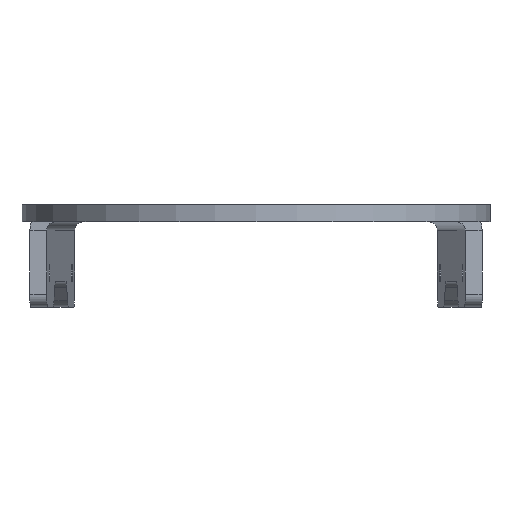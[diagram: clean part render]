
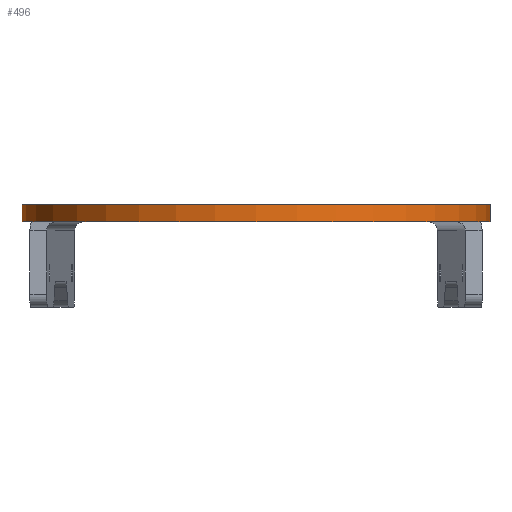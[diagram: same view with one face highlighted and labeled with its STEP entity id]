
A CAD part, front view. The second image highlights one B-rep face of the part: STEP entity #496.
In plain terms, the highlighted cylindrical face has radius 55 mm (diameter 110 mm), a partial arc.
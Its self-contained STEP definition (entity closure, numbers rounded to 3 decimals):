
#442 = EDGE_CURVE ( 'NONE', #537, #445, #2661, .T. ) ;
#445 = VERTEX_POINT ( 'NONE', #2670 ) ;
#489 = EDGE_CURVE ( 'NONE', #491, #445, #2534, .T. ) ;
#491 = VERTEX_POINT ( 'NONE', #2775 ) ;
#492 = EDGE_CURVE ( 'NONE', #493, #537, #2768, .T. ) ;
#493 = VERTEX_POINT ( 'NONE', #2763 ) ;
#494 = ORIENTED_EDGE ( 'NONE', *, *, #499, .T. ) ;
#495 = ORIENTED_EDGE ( 'NONE', *, *, #492, .F. ) ;
#496 = ADVANCED_FACE ( 'NONE', ( #2769 ), #2771, .T. ) ;
#497 = ORIENTED_EDGE ( 'NONE', *, *, #442, .F. ) ;
#498 = ORIENTED_EDGE ( 'NONE', *, *, #489, .T. ) ;
#499 = EDGE_CURVE ( 'NONE', #493, #491, #2770, .T. ) ;
#537 = VERTEX_POINT ( 'NONE', #2731 ) ;
#593 = EDGE_LOOP ( 'NONE', ( #497, #495, #494, #498 ) ) ;
#2515 = DIRECTION ( 'NONE',  ( 0., 0., 1. ) ) ;
#2518 = DIRECTION ( 'NONE',  ( 1., 0., 0. ) ) ;
#2519 = AXIS2_PLACEMENT_3D ( 'NONE', #2527, #2515, #2518 ) ;
#2527 = CARTESIAN_POINT ( 'NONE',  ( 0., 0., 0. ) ) ;
#2534 = CIRCLE ( 'NONE', #2519, 55. ) ;
#2659 = DIRECTION ( 'NONE',  ( 0., 0., -1. ) ) ;
#2660 = VECTOR ( 'NONE', #2659, 1000. ) ;
#2661 = LINE ( 'NONE', #2673, #2660 ) ;
#2670 = CARTESIAN_POINT ( 'NONE',  ( 55., 0., 0. ) ) ;
#2673 = CARTESIAN_POINT ( 'NONE',  ( 55., 0., 4. ) ) ;
#2731 = CARTESIAN_POINT ( 'NONE',  ( 55., 0., 4. ) ) ;
#2753 = DIRECTION ( 'NONE',  ( 0., 0., -1. ) ) ;
#2754 = VECTOR ( 'NONE', #2753, 1000. ) ;
#2755 = CARTESIAN_POINT ( 'NONE',  ( -55., 0., 4. ) ) ;
#2761 = DIRECTION ( 'NONE',  ( -1., 0., 0. ) ) ;
#2762 = DIRECTION ( 'NONE',  ( 0., 0., -1. ) ) ;
#2763 = CARTESIAN_POINT ( 'NONE',  ( -55., 0., 4. ) ) ;
#2764 = DIRECTION ( 'NONE',  ( 1., 0., 0. ) ) ;
#2765 = DIRECTION ( 'NONE',  ( 0., 0., 1. ) ) ;
#2766 = CARTESIAN_POINT ( 'NONE',  ( 0., 0., 4. ) ) ;
#2767 = AXIS2_PLACEMENT_3D ( 'NONE', #2766, #2765, #2764 ) ;
#2768 = CIRCLE ( 'NONE', #2767, 55. ) ;
#2769 = FACE_OUTER_BOUND ( 'NONE', #593, .T. ) ;
#2770 = LINE ( 'NONE', #2755, #2754 ) ;
#2771 = CYLINDRICAL_SURFACE ( 'NONE', #2772, 55. ) ;
#2772 = AXIS2_PLACEMENT_3D ( 'NONE', #2773, #2762, #2761 ) ;
#2773 = CARTESIAN_POINT ( 'NONE',  ( 0., 0., 4. ) ) ;
#2775 = CARTESIAN_POINT ( 'NONE',  ( -55., 0., 0. ) ) ;
